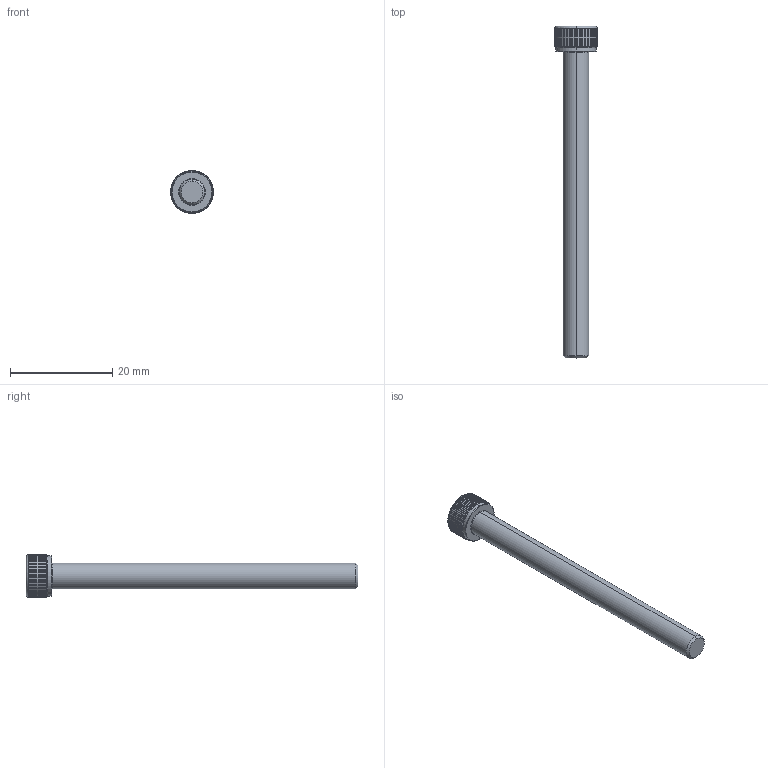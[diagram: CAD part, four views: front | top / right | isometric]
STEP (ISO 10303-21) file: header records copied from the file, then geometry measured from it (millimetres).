
FILE_DESCRIPTION (( 'STEP AP203' ), '1' );
FILE_NAME ('LGDT-304-M5x60.STEP', '2026-08-10T04:07:36', ( '' ), ( '' ), 'SwSTEP 2.0', 'SolidWorks 2020', '' );
FILE_SCHEMA (( 'CONFIG_CONTROL_DESIGN' ));
Length unit declared in the file: millimetre
Products named in the file (1): LGDT-304-M5x60
Bounding box: 8.4 x 65 x 8.4 mm (x, y, z)
Volume: 1406.1 mm3; surface area: 1211.2 mm2
Topology: 1 solids, 1 shells, 204 faces, 576 edges, 376 vertices
Faces by surface type: cylinder 175, cone 11, plane 10, torus 8
Entity records: 8367 total; most frequent: CARTESIAN_POINT 3208, ORIENTED_EDGE 1152, DIRECTION 988, EDGE_CURVE 576, AXIS2_PLACEMENT_3D 398, VERTEX_POINT 376, EDGE_LOOP 206, ADVANCED_FACE 204
